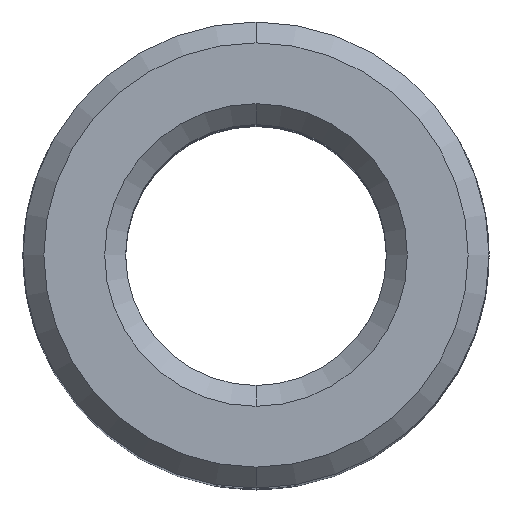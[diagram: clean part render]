
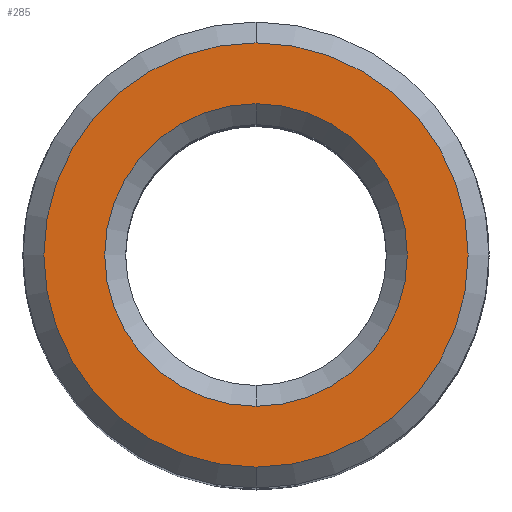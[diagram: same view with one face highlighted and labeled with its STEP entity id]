
A CAD part, top view. The second image highlights one B-rep face of the part: STEP entity #285.
In plain terms, the highlighted planar face has unit normal (0, 0, 1).
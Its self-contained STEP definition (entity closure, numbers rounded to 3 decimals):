
#26 = AXIS2_PLACEMENT_3D ( 'NONE', #186, #178, #170 ) ;
#69 = FACE_BOUND ( 'NONE', #1377, .T. ) ;
#103 = CARTESIAN_POINT ( 'NONE',  ( 0., 0., 0. ) ) ;
#116 = DIRECTION ( 'NONE',  ( 0., 0., -1. ) ) ;
#127 = DIRECTION ( 'NONE',  ( 0., 1., 0. ) ) ;
#143 = CARTESIAN_POINT ( 'NONE',  ( 0., 0., 0. ) ) ;
#151 = DIRECTION ( 'NONE',  ( 0., 0., 1. ) ) ;
#156 = VERTEX_POINT ( 'NONE', #1453 ) ;
#170 = DIRECTION ( 'NONE',  ( 0., 1., 0. ) ) ;
#178 = DIRECTION ( 'NONE',  ( 0., 0., 1. ) ) ;
#185 = ORIENTED_EDGE ( 'NONE', *, *, #1400, .T. ) ;
#186 = CARTESIAN_POINT ( 'NONE',  ( 0., 0., 0. ) ) ;
#237 = ORIENTED_EDGE ( 'NONE', *, *, #671, .T. ) ;
#246 = DIRECTION ( 'NONE',  ( 0., 1., 0. ) ) ;
#285 = ADVANCED_FACE ( 'NONE', ( #69, #397 ), #670, .F. ) ;
#397 = FACE_OUTER_BOUND ( 'NONE', #1319, .T. ) ;
#399 = DIRECTION ( 'NONE',  ( 0., 0., -1. ) ) ;
#405 = CARTESIAN_POINT ( 'NONE',  ( 0., 21.75, 0. ) ) ;
#414 = CIRCLE ( 'NONE', #1387, 21.75 ) ;
#544 = CARTESIAN_POINT ( 'NONE',  ( 0., 0., 0. ) ) ;
#550 = CARTESIAN_POINT ( 'NONE',  ( 0., -21.75, 0. ) ) ;
#571 = AXIS2_PLACEMENT_3D ( 'NONE', #103, #116, #127 ) ;
#628 = AXIS2_PLACEMENT_3D ( 'NONE', #143, #151, #246 ) ;
#668 = CIRCLE ( 'NONE', #628, 30.5 ) ;
#670 = PLANE ( 'NONE',  #1244 ) ;
#671 = EDGE_CURVE ( 'NONE', #1017, #1349, #1050, .T. ) ;
#777 = DIRECTION ( 'NONE',  ( 0., 1., 0. ) ) ;
#782 = CIRCLE ( 'NONE', #26, 30.5 ) ;
#792 = ORIENTED_EDGE ( 'NONE', *, *, #1344, .T. ) ;
#840 = VERTEX_POINT ( 'NONE', #1293 ) ;
#859 = DIRECTION ( 'NONE',  ( 0., 0., -1. ) ) ;
#917 = DIRECTION ( 'NONE',  ( 0., 1., 0. ) ) ;
#1017 = VERTEX_POINT ( 'NONE', #405 ) ;
#1050 = CIRCLE ( 'NONE', #571, 21.75 ) ;
#1063 = EDGE_CURVE ( 'NONE', #840, #156, #668, .T. ) ;
#1195 = CARTESIAN_POINT ( 'NONE',  ( 0., 18.75, 0. ) ) ;
#1244 = AXIS2_PLACEMENT_3D ( 'NONE', #1195, #399, #777 ) ;
#1293 = CARTESIAN_POINT ( 'NONE',  ( 0., 30.5, 0. ) ) ;
#1319 = EDGE_LOOP ( 'NONE', ( #1340, #185 ) ) ;
#1340 = ORIENTED_EDGE ( 'NONE', *, *, #1063, .T. ) ;
#1344 = EDGE_CURVE ( 'NONE', #1349, #1017, #414, .T. ) ;
#1349 = VERTEX_POINT ( 'NONE', #550 ) ;
#1377 = EDGE_LOOP ( 'NONE', ( #792, #237 ) ) ;
#1387 = AXIS2_PLACEMENT_3D ( 'NONE', #544, #859, #917 ) ;
#1400 = EDGE_CURVE ( 'NONE', #156, #840, #782, .T. ) ;
#1453 = CARTESIAN_POINT ( 'NONE',  ( 0., -30.5, 0. ) ) ;
